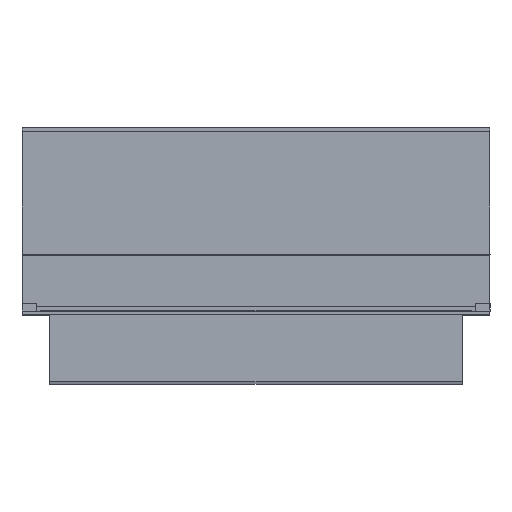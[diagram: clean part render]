
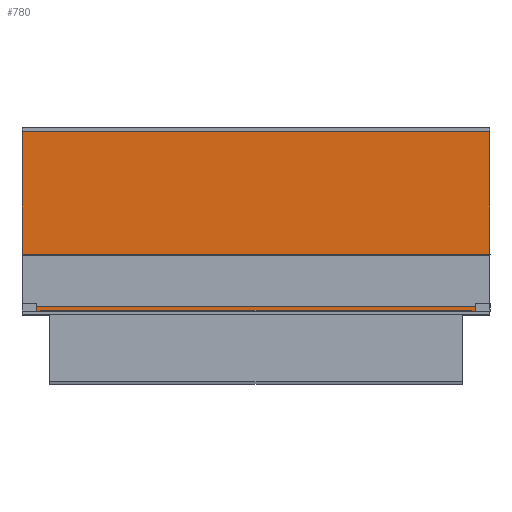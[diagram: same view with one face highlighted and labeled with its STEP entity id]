
A CAD part, top view. The second image highlights one B-rep face of the part: STEP entity #780.
In plain terms, the highlighted planar face has unit normal (0, 0, 1).
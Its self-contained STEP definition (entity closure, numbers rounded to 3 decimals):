
#154 = ORIENTED_EDGE ( 'NONE', *, *, #3105, .T. ) ;
#178 = LINE ( 'NONE', #3158, #4789 ) ;
#281 = EDGE_CURVE ( 'NONE', #3863, #1743, #3991, .T. ) ;
#780 = ADVANCED_FACE ( 'NONE', ( #940 ), #3180, .T. ) ;
#808 = EDGE_LOOP ( 'NONE', ( #2902, #154, #1813, #3779 ) ) ;
#870 = CARTESIAN_POINT ( 'NONE',  ( 206.385, -203.917, -296.501 ) ) ;
#940 = FACE_OUTER_BOUND ( 'NONE', #808, .T. ) ;
#948 = VECTOR ( 'NONE', #4770, 1000. ) ;
#1194 = VECTOR ( 'NONE', #4705, 1000. ) ;
#1387 = CARTESIAN_POINT ( 'NONE',  ( -793.615, 196.083, -296.501 ) ) ;
#1614 = VERTEX_POINT ( 'NONE', #3827 ) ;
#1677 = DIRECTION ( 'NONE',  ( 0., 0., 1. ) ) ;
#1743 = VERTEX_POINT ( 'NONE', #2755 ) ;
#1813 = ORIENTED_EDGE ( 'NONE', *, *, #281, .T. ) ;
#2157 = LINE ( 'NONE', #3201, #948 ) ;
#2423 = DIRECTION ( 'NONE',  ( 1., 0., 0. ) ) ;
#2489 = AXIS2_PLACEMENT_3D ( 'NONE', #3956, #1677, #3200 ) ;
#2755 = CARTESIAN_POINT ( 'NONE',  ( 206.385, 196.083, -296.501 ) ) ;
#2760 = CARTESIAN_POINT ( 'NONE',  ( -793.615, 196.083, -296.501 ) ) ;
#2902 = ORIENTED_EDGE ( 'NONE', *, *, #3277, .T. ) ;
#3105 = EDGE_CURVE ( 'NONE', #1614, #3863, #178, .T. ) ;
#3158 = CARTESIAN_POINT ( 'NONE',  ( -793.615, -203.917, -296.501 ) ) ;
#3180 = PLANE ( 'NONE',  #2489 ) ;
#3196 = LINE ( 'NONE', #2760, #4457 ) ;
#3200 = DIRECTION ( 'NONE',  ( 1., 0., 0. ) ) ;
#3201 = CARTESIAN_POINT ( 'NONE',  ( -793.615, 196.083, -296.501 ) ) ;
#3277 = EDGE_CURVE ( 'NONE', #3520, #1614, #2157, .T. ) ;
#3520 = VERTEX_POINT ( 'NONE', #1387 ) ;
#3779 = ORIENTED_EDGE ( 'NONE', *, *, #4378, .T. ) ;
#3827 = CARTESIAN_POINT ( 'NONE',  ( -793.615, -203.917, -296.501 ) ) ;
#3863 = VERTEX_POINT ( 'NONE', #870 ) ;
#3956 = CARTESIAN_POINT ( 'NONE',  ( -793.615, -203.917, -296.501 ) ) ;
#3991 = LINE ( 'NONE', #4752, #1194 ) ;
#4245 = DIRECTION ( 'NONE',  ( -1., 0., 0. ) ) ;
#4378 = EDGE_CURVE ( 'NONE', #1743, #3520, #3196, .T. ) ;
#4457 = VECTOR ( 'NONE', #4245, 1000. ) ;
#4705 = DIRECTION ( 'NONE',  ( 0., 1., 0. ) ) ;
#4752 = CARTESIAN_POINT ( 'NONE',  ( 206.385, 196.083, -296.501 ) ) ;
#4770 = DIRECTION ( 'NONE',  ( 0., -1., 0. ) ) ;
#4789 = VECTOR ( 'NONE', #2423, 1000. ) ;
